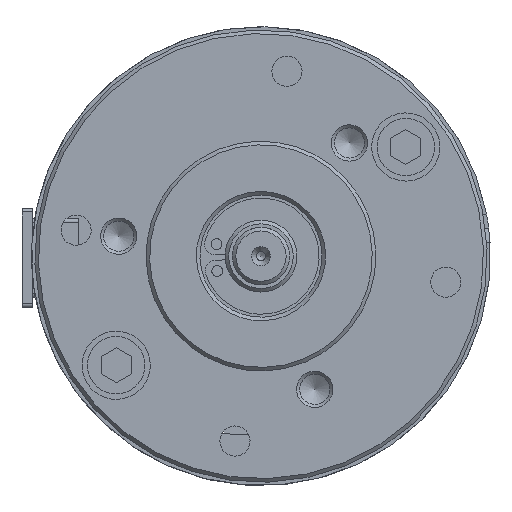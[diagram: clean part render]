
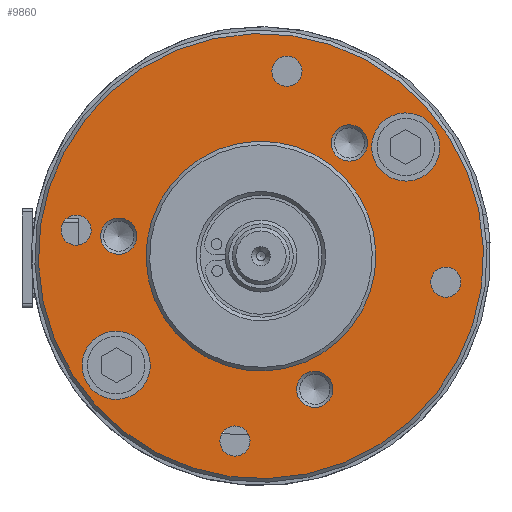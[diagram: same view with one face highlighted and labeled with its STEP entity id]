
A CAD part, left-side view. The second image highlights one B-rep face of the part: STEP entity #9860.
In plain terms, the highlighted planar face has unit normal (-1, 0, 0).
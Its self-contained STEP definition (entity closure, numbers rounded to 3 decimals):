
#171 = DIRECTION ( 'NONE',  ( -1., 0., 0. ) ) ;
#182 = FACE_BOUND ( 'NONE', #4119, .T. ) ;
#206 = ORIENTED_EDGE ( 'NONE', *, *, #12803, .F. ) ;
#599 = CARTESIAN_POINT ( 'NONE',  ( -121.6, -7.491, -18.545 ) ) ;
#624 = CIRCLE ( 'NONE', #10599, 16. ) ;
#682 = CARTESIAN_POINT ( 'NONE',  ( -121.6, 19.805, 2.783 ) ) ;
#717 = CIRCLE ( 'NONE', #14381, 2.1 ) ;
#1042 = VERTEX_POINT ( 'NONE', #8643 ) ;
#1243 = CARTESIAN_POINT ( 'NONE',  ( -121.6, -2.227, 15.844 ) ) ;
#1301 = CARTESIAN_POINT ( 'NONE',  ( -121.6, 3.911, -27.827 ) ) ;
#1722 = EDGE_CURVE ( 'NONE', #1042, #1042, #6785, .T. ) ;
#1733 = DIRECTION ( 'NONE',  ( 0., 0.139, -0.99 ) ) ;
#1829 = ORIENTED_EDGE ( 'NONE', *, *, #14072, .F. ) ;
#1851 = DIRECTION ( 'NONE',  ( -1., 0., 0. ) ) ;
#2064 = CARTESIAN_POINT ( 'NONE',  ( -121.6, -7.14, -21.045 ) ) ;
#2349 = CARTESIAN_POINT ( 'NONE',  ( -121.6, 25.747, 3.619 ) ) ;
#2382 = CIRCLE ( 'NONE', #6289, 4.75 ) ;
#2512 = ORIENTED_EDGE ( 'NONE', *, *, #11846, .T. ) ;
#2608 = EDGE_CURVE ( 'NONE', #6322, #6322, #8464, .T. ) ;
#2708 = CIRCLE ( 'NONE', #13515, 4.75 ) ;
#2742 = DIRECTION ( 'NONE',  ( 0., 0.139, -0.99 ) ) ;
#2805 = EDGE_LOOP ( 'NONE', ( #3249 ) ) ;
#2940 = ORIENTED_EDGE ( 'NONE', *, *, #11516, .F. ) ;
#3129 = ORIENTED_EDGE ( 'NONE', *, *, #6152, .F. ) ;
#3145 = VERTEX_POINT ( 'NONE', #3612 ) ;
#3173 = FACE_BOUND ( 'NONE', #9973, .T. ) ;
#3249 = ORIENTED_EDGE ( 'NONE', *, *, #2608, .T. ) ;
#3380 = EDGE_LOOP ( 'NONE', ( #206 ) ) ;
#3385 = CARTESIAN_POINT ( 'NONE',  ( -121.6, 3.619, -25.747 ) ) ;
#3456 = DIRECTION ( 'NONE',  ( 0., 0.139, -0.99 ) ) ;
#3612 = CARTESIAN_POINT ( 'NONE',  ( -121.6, 20.827, -19.9 ) ) ;
#3652 = CARTESIAN_POINT ( 'NONE',  ( -121.6, -25.747, -3.619 ) ) ;
#3862 = ORIENTED_EDGE ( 'NONE', *, *, #10443, .F. ) ;
#4107 = CIRCLE ( 'NONE', #8552, 2.525 ) ;
#4119 = EDGE_LOOP ( 'NONE', ( #6144 ) ) ;
#4277 = CARTESIAN_POINT ( 'NONE',  ( -121.6, 20.166, -15.196 ) ) ;
#4450 = EDGE_LOOP ( 'NONE', ( #1829 ) ) ;
#4485 = DIRECTION ( 'NONE',  ( 0., 0.139, -0.99 ) ) ;
#4569 = CARTESIAN_POINT ( 'NONE',  ( -121.6, -19.504, 10.492 ) ) ;
#4755 = DIRECTION ( 'NONE',  ( 0., 0.139, -0.99 ) ) ;
#4928 = EDGE_LOOP ( 'NONE', ( #3862 ) ) ;
#5141 = EDGE_CURVE ( 'NONE', #10856, #10856, #14109, .T. ) ;
#5253 = VERTEX_POINT ( 'NONE', #1243 ) ;
#5416 = DIRECTION ( 'NONE',  ( 0., 0.139, -0.99 ) ) ;
#5428 = VERTEX_POINT ( 'NONE', #14443 ) ;
#5469 = CARTESIAN_POINT ( 'NONE',  ( -121.6, 0., 0. ) ) ;
#5595 = VERTEX_POINT ( 'NONE', #5728 ) ;
#5728 = CARTESIAN_POINT ( 'NONE',  ( -121.6, -3.326, 23.667 ) ) ;
#5800 = FACE_BOUND ( 'NONE', #7879, .T. ) ;
#5916 = AXIS2_PLACEMENT_3D ( 'NONE', #6916, #171, #8224 ) ;
#5996 = DIRECTION ( 'NONE',  ( 1., 0., 0. ) ) ;
#6080 = DIRECTION ( 'NONE',  ( -1., 0., 0. ) ) ;
#6144 = ORIENTED_EDGE ( 'NONE', *, *, #5141, .F. ) ;
#6151 = FACE_BOUND ( 'NONE', #8758, .T. ) ;
#6152 = EDGE_CURVE ( 'NONE', #12780, #12780, #4107, .T. ) ;
#6289 = AXIS2_PLACEMENT_3D ( 'NONE', #4277, #12108, #5416 ) ;
#6301 = CARTESIAN_POINT ( 'NONE',  ( -121.6, 0., 0. ) ) ;
#6322 = VERTEX_POINT ( 'NONE', #13114 ) ;
#6507 = FACE_BOUND ( 'NONE', #10453, .T. ) ;
#6602 = DIRECTION ( 'NONE',  ( 0., -0.139, 0.99 ) ) ;
#6785 = CIRCLE ( 'NONE', #10180, 2.525 ) ;
#6916 = CARTESIAN_POINT ( 'NONE',  ( -121.6, -3.619, 25.747 ) ) ;
#7879 = EDGE_LOOP ( 'NONE', ( #2512 ) ) ;
#7960 = EDGE_CURVE ( 'NONE', #5428, #5428, #12912, .T. ) ;
#8224 = DIRECTION ( 'NONE',  ( 0., 0.139, -0.99 ) ) ;
#8363 = CIRCLE ( 'NONE', #13036, 2.525 ) ;
#8464 = CIRCLE ( 'NONE', #11453, 31. ) ;
#8467 = DIRECTION ( 'NONE',  ( -1., 0., 0. ) ) ;
#8484 = ORIENTED_EDGE ( 'NONE', *, *, #1722, .F. ) ;
#8552 = AXIS2_PLACEMENT_3D ( 'NONE', #599, #8467, #1733 ) ;
#8577 = CARTESIAN_POINT ( 'NONE',  ( -121.6, -20.166, 15.196 ) ) ;
#8581 = ORIENTED_EDGE ( 'NONE', *, *, #7960, .F. ) ;
#8643 = CARTESIAN_POINT ( 'NONE',  ( -121.6, 20.157, 0.283 ) ) ;
#8682 = AXIS2_PLACEMENT_3D ( 'NONE', #2349, #10142, #3456 ) ;
#8730 = CARTESIAN_POINT ( 'NONE',  ( -121.6, -25.455, -5.698 ) ) ;
#8758 = EDGE_LOOP ( 'NONE', ( #2940 ) ) ;
#8775 = FACE_BOUND ( 'NONE', #14088, .T. ) ;
#8805 = AXIS2_PLACEMENT_3D ( 'NONE', #3652, #11501, #4755 ) ;
#9118 = FACE_BOUND ( 'NONE', #3380, .T. ) ;
#9458 = FACE_BOUND ( 'NONE', #10561, .T. ) ;
#9676 = DIRECTION ( 'NONE',  ( 0., 0.139, -0.99 ) ) ;
#9860 = ADVANCED_FACE ( 'NONE', ( #6507, #12439, #9458, #12087, #9118, #6151, #3173, #182, #11738, #8775, #5800 ), #13774, .F. ) ;
#9973 = EDGE_LOOP ( 'NONE', ( #8581 ) ) ;
#10131 = VERTEX_POINT ( 'NONE', #1301 ) ;
#10142 = DIRECTION ( 'NONE',  ( -1., 0., 0. ) ) ;
#10154 = DIRECTION ( 'NONE',  ( -1., 0., 0. ) ) ;
#10180 = AXIS2_PLACEMENT_3D ( 'NONE', #682, #11140, #2742 ) ;
#10210 = CIRCLE ( 'NONE', #5916, 2.1 ) ;
#10443 = EDGE_CURVE ( 'NONE', #12241, #12241, #8363, .T. ) ;
#10453 = EDGE_LOOP ( 'NONE', ( #8484 ) ) ;
#10561 = EDGE_LOOP ( 'NONE', ( #3129 ) ) ;
#10599 = AXIS2_PLACEMENT_3D ( 'NONE', #5469, #13287, #6602 ) ;
#10654 = DIRECTION ( 'NONE',  ( 0., -0.139, 0.99 ) ) ;
#10856 = VERTEX_POINT ( 'NONE', #8730 ) ;
#11140 = DIRECTION ( 'NONE',  ( -1., 0., 0. ) ) ;
#11233 = DIRECTION ( 'NONE',  ( -1., 0., 0. ) ) ;
#11273 = EDGE_CURVE ( 'NONE', #11552, #11552, #2708, .T. ) ;
#11453 = AXIS2_PLACEMENT_3D ( 'NONE', #6301, #10154, #10654 ) ;
#11501 = DIRECTION ( 'NONE',  ( -1., 0., 0. ) ) ;
#11516 = EDGE_CURVE ( 'NONE', #5595, #5595, #10210, .T. ) ;
#11552 = VERTEX_POINT ( 'NONE', #4569 ) ;
#11738 = FACE_BOUND ( 'NONE', #4450, .T. ) ;
#11846 = EDGE_CURVE ( 'NONE', #5253, #5253, #624, .T. ) ;
#12087 = FACE_OUTER_BOUND ( 'NONE', #2805, .T. ) ;
#12108 = DIRECTION ( 'NONE',  ( -1., 0., 0. ) ) ;
#12241 = VERTEX_POINT ( 'NONE', #13510 ) ;
#12439 = FACE_BOUND ( 'NONE', #4928, .T. ) ;
#12686 = CARTESIAN_POINT ( 'NONE',  ( -121.6, -31.193, -4.384 ) ) ;
#12766 = CARTESIAN_POINT ( 'NONE',  ( -121.6, -12.314, 15.759 ) ) ;
#12780 = VERTEX_POINT ( 'NONE', #2064 ) ;
#12803 = EDGE_CURVE ( 'NONE', #10131, #10131, #717, .T. ) ;
#12912 = CIRCLE ( 'NONE', #8682, 2.1 ) ;
#13036 = AXIS2_PLACEMENT_3D ( 'NONE', #12766, #6080, #13901 ) ;
#13093 = ORIENTED_EDGE ( 'NONE', *, *, #11273, .F. ) ;
#13114 = CARTESIAN_POINT ( 'NONE',  ( -121.6, -4.314, 30.698 ) ) ;
#13287 = DIRECTION ( 'NONE',  ( 1., 0., 0. ) ) ;
#13510 = CARTESIAN_POINT ( 'NONE',  ( -121.6, -11.962, 13.258 ) ) ;
#13515 = AXIS2_PLACEMENT_3D ( 'NONE', #8577, #1851, #9676 ) ;
#13774 = PLANE ( 'NONE',  #14439 ) ;
#13823 = DIRECTION ( 'NONE',  ( 0., -0.139, 0.99 ) ) ;
#13901 = DIRECTION ( 'NONE',  ( 0., 0.139, -0.99 ) ) ;
#14072 = EDGE_CURVE ( 'NONE', #3145, #3145, #2382, .T. ) ;
#14088 = EDGE_LOOP ( 'NONE', ( #13093 ) ) ;
#14109 = CIRCLE ( 'NONE', #8805, 2.1 ) ;
#14381 = AXIS2_PLACEMENT_3D ( 'NONE', #3385, #11233, #4485 ) ;
#14439 = AXIS2_PLACEMENT_3D ( 'NONE', #12686, #5996, #13823 ) ;
#14443 = CARTESIAN_POINT ( 'NONE',  ( -121.6, 26.039, 1.539 ) ) ;
